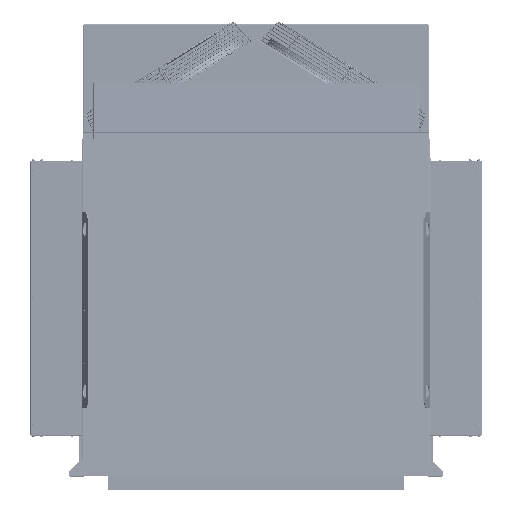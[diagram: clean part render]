
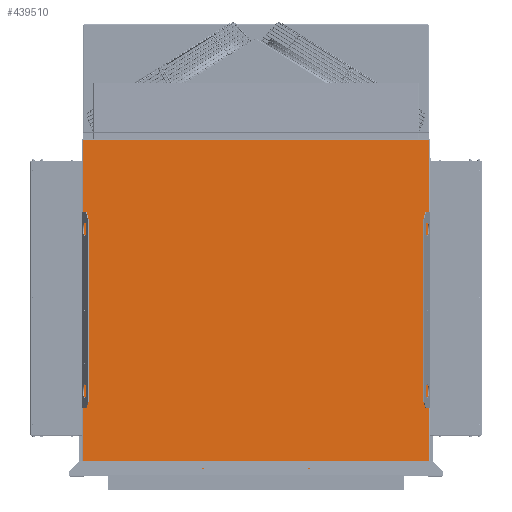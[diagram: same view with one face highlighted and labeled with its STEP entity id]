
A CAD part, top view. The second image highlights one B-rep face of the part: STEP entity #439510.
In plain terms, the highlighted planar face has unit normal (0, 0.044, 0.999) as drawn and (0, 0, 1) by its records, which use the part's own axes.
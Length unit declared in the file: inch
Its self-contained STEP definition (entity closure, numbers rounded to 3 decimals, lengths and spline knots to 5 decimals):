
#11277 = CARTESIAN_POINT ( 'NONE',  ( 50.172, 0.01567, 0.06 ) ) ;
#11894 = LINE ( 'NONE', #552154, #217086 ) ;
#13042 = CIRCLE ( 'NONE', #553299, 0.0745 ) ;
#20046 = CARTESIAN_POINT ( 'NONE',  ( 0.015, 48.78, 0.06 ) ) ;
#20599 = VECTOR ( 'NONE', #441628, 39.37008 ) ;
#26569 = CARTESIAN_POINT ( 'NONE',  ( 32.88667, 0.99488, 0.06 ) ) ;
#27259 = ORIENTED_EDGE ( 'NONE', *, *, #332758, .F. ) ;
#28113 = CARTESIAN_POINT ( 'NONE',  ( 0., 0.125, 0.06 ) ) ;
#32053 = EDGE_CURVE ( 'NONE', #133504, #542837, #13042, .T. ) ;
#32290 = DIRECTION ( 'NONE',  ( 1., 0., 0. ) ) ;
#33481 = AXIS2_PLACEMENT_3D ( 'NONE', #159142, #340338, #521267 ) ;
#38396 = CARTESIAN_POINT ( 'NONE',  ( 0.188, 0., 0.06 ) ) ;
#40410 = EDGE_LOOP ( 'NONE', ( #212394, #309533, #569633, #535136, #318163, #343808, #141840, #113330 ) ) ;
#43125 = EDGE_CURVE ( 'NONE', #484783, #525102, #81365, .T. ) ;
#43129 = VECTOR ( 'NONE', #528334, 39.37008 ) ;
#51130 = EDGE_CURVE ( 'NONE', #526391, #560464, #417854, .T. ) ;
#51651 = ORIENTED_EDGE ( 'NONE', *, *, #171694, .F. ) ;
#59972 = VECTOR ( 'NONE', #184665, 39.37008 ) ;
#64544 = EDGE_CURVE ( 'NONE', #202168, #128416, #117902, .T. ) ;
#66299 = EDGE_CURVE ( 'NONE', #442909, #202168, #11894, .T. ) ;
#67101 = FACE_BOUND ( 'NONE', #332042, .T. ) ;
#71490 = DIRECTION ( 'NONE',  ( 0., 0., 1. ) ) ;
#77910 = VECTOR ( 'NONE', #561153, 39.37008 ) ;
#81365 = LINE ( 'NONE', #28113, #420480 ) ;
#85583 = LINE ( 'NONE', #199533, #541703 ) ;
#86780 = CARTESIAN_POINT ( 'NONE',  ( 50.345, 0.125, 0.06 ) ) ;
#88011 = VERTEX_POINT ( 'NONE', #438697 ) ;
#96069 = CARTESIAN_POINT ( 'NONE',  ( 0.188, 0.01567, 0.06 ) ) ;
#111778 = VERTEX_POINT ( 'NONE', #401046 ) ;
#113330 = ORIENTED_EDGE ( 'NONE', *, *, #66299, .T. ) ;
#114941 = VERTEX_POINT ( 'NONE', #477456 ) ;
#115452 = DIRECTION ( 'NONE',  ( 1., 0., 0. ) ) ;
#116901 = EDGE_CURVE ( 'NONE', #542837, #133504, #430846, .T. ) ;
#117902 = LINE ( 'NONE', #20046, #216715 ) ;
#126040 = DIRECTION ( 'NONE',  ( 0., 0., 1. ) ) ;
#128247 = CARTESIAN_POINT ( 'NONE',  ( 48.3, 0.99488, 0.06 ) ) ;
#128416 = VERTEX_POINT ( 'NONE', #321399 ) ;
#133033 = DIRECTION ( 'NONE',  ( 0., 0., 1. ) ) ;
#133504 = VERTEX_POINT ( 'NONE', #541561 ) ;
#141840 = ORIENTED_EDGE ( 'NONE', *, *, #201828, .T. ) ;
#145421 = DIRECTION ( 'NONE',  ( -1., 0., 0. ) ) ;
#146499 = ORIENTED_EDGE ( 'NONE', *, *, #332454, .F. ) ;
#147624 = CARTESIAN_POINT ( 'NONE',  ( 50.345, 48.76564, 0.06 ) ) ;
#159142 = CARTESIAN_POINT ( 'NONE',  ( 0., 0., 0.06 ) ) ;
#162903 = DIRECTION ( 'NONE',  ( 0., 0., 1. ) ) ;
#168075 = AXIS2_PLACEMENT_3D ( 'NONE', #449605, #126040, #217949 ) ;
#171694 = EDGE_CURVE ( 'NONE', #366582, #187385, #336636, .T. ) ;
#184665 = DIRECTION ( 'NONE',  ( 0., 1., 0. ) ) ;
#185162 = EDGE_LOOP ( 'NONE', ( #146499, #51651 ) ) ;
#187385 = VERTEX_POINT ( 'NONE', #368476 ) ;
#188133 = EDGE_LOOP ( 'NONE', ( #197233, #309720 ) ) ;
#194034 = ORIENTED_EDGE ( 'NONE', *, *, #340081, .F. ) ;
#197233 = ORIENTED_EDGE ( 'NONE', *, *, #116901, .F. ) ;
#197800 = FACE_OUTER_BOUND ( 'NONE', #40410, .T. ) ;
#199008 = CARTESIAN_POINT ( 'NONE',  ( 50.172, 0., 0.06 ) ) ;
#199533 = CARTESIAN_POINT ( 'NONE',  ( 0., 0.125, 0.06 ) ) ;
#201087 = DIRECTION ( 'NONE',  ( 0., -1., 0. ) ) ;
#201828 = EDGE_CURVE ( 'NONE', #525102, #442909, #330045, .T. ) ;
#202168 = VERTEX_POINT ( 'NONE', #524948 ) ;
#203661 = FACE_BOUND ( 'NONE', #267827, .T. ) ;
#211433 = DIRECTION ( 'NONE',  ( 0., 0., 1. ) ) ;
#212394 = ORIENTED_EDGE ( 'NONE', *, *, #64544, .T. ) ;
#215760 = LINE ( 'NONE', #96069, #20599 ) ;
#216715 = VECTOR ( 'NONE', #201087, 39.37008 ) ;
#217086 = VECTOR ( 'NONE', #145421, 39.37008 ) ;
#217949 = DIRECTION ( 'NONE',  ( 1., 0., 0. ) ) ;
#238807 = CARTESIAN_POINT ( 'NONE',  ( 1.9855, 0.99488, 0.06 ) ) ;
#251519 = EDGE_CURVE ( 'NONE', #88011, #435132, #215760, .T. ) ;
#252684 = CARTESIAN_POINT ( 'NONE',  ( 32.96117, 0.99488, 0.06 ) ) ;
#262469 = DIRECTION ( 'NONE',  ( 1., 0., 0. ) ) ;
#267827 = EDGE_LOOP ( 'NONE', ( #364576, #27259 ) ) ;
#276552 = AXIS2_PLACEMENT_3D ( 'NONE', #338854, #71490, #516871 ) ;
#290470 = EDGE_CURVE ( 'NONE', #535459, #111778, #312776, .T. ) ;
#301118 = ORIENTED_EDGE ( 'NONE', *, *, #51130, .F. ) ;
#309533 = ORIENTED_EDGE ( 'NONE', *, *, #538298, .T. ) ;
#309720 = ORIENTED_EDGE ( 'NONE', *, *, #32053, .F. ) ;
#312776 = CIRCLE ( 'NONE', #483274, 0.0745 ) ;
#318163 = ORIENTED_EDGE ( 'NONE', *, *, #408430, .T. ) ;
#320136 = AXIS2_PLACEMENT_3D ( 'NONE', #128247, #211433, #356873 ) ;
#321399 = CARTESIAN_POINT ( 'NONE',  ( 0.015, 0.125, 0.06 ) ) ;
#330045 = LINE ( 'NONE', #463720, #59972 ) ;
#332042 = EDGE_LOOP ( 'NONE', ( #194034, #301118 ) ) ;
#332454 = EDGE_CURVE ( 'NONE', #187385, #366582, #348279, .T. ) ;
#332758 = EDGE_CURVE ( 'NONE', #111778, #535459, #462611, .T. ) ;
#336636 = CIRCLE ( 'NONE', #412652, 0.0745 ) ;
#338854 = CARTESIAN_POINT ( 'NONE',  ( 32.88667, 0.99488, 0.06 ) ) ;
#340081 = EDGE_CURVE ( 'NONE', #560464, #526391, #493273, .T. ) ;
#340338 = DIRECTION ( 'NONE',  ( 0., 0., 1. ) ) ;
#341535 = LINE ( 'NONE', #199008, #77910 ) ;
#343808 = ORIENTED_EDGE ( 'NONE', *, *, #43125, .T. ) ;
#348279 = CIRCLE ( 'NONE', #168075, 0.0745 ) ;
#350017 = CARTESIAN_POINT ( 'NONE',  ( 48.3, 0.99488, 0.06 ) ) ;
#356873 = DIRECTION ( 'NONE',  ( 1., 0., 0. ) ) ;
#360623 = CARTESIAN_POINT ( 'NONE',  ( 17.47333, 0.99488, 0.06 ) ) ;
#364576 = ORIENTED_EDGE ( 'NONE', *, *, #290470, .F. ) ;
#366582 = VERTEX_POINT ( 'NONE', #238807 ) ;
#368476 = CARTESIAN_POINT ( 'NONE',  ( 2.1345, 0.99488, 0.06 ) ) ;
#373934 = CARTESIAN_POINT ( 'NONE',  ( 17.54783, 0.99488, 0.06 ) ) ;
#378277 = CARTESIAN_POINT ( 'NONE',  ( 17.47333, 0.99488, 0.06 ) ) ;
#379026 = PLANE ( 'NONE',  #33481 ) ;
#380721 = DIRECTION ( 'NONE',  ( 1., 0., 0. ) ) ;
#391969 = LINE ( 'NONE', #38396, #43129 ) ;
#401046 = CARTESIAN_POINT ( 'NONE',  ( 48.2255, 0.99488, 0.06 ) ) ;
#408430 = EDGE_CURVE ( 'NONE', #435132, #484783, #341535, .T. ) ;
#412652 = AXIS2_PLACEMENT_3D ( 'NONE', #522077, #162903, #115452 ) ;
#417564 = AXIS2_PLACEMENT_3D ( 'NONE', #26569, #477835, #572716 ) ;
#417854 = CIRCLE ( 'NONE', #276552, 0.0745 ) ;
#420480 = VECTOR ( 'NONE', #262469, 39.37008 ) ;
#430846 = CIRCLE ( 'NONE', #573101, 0.0745 ) ;
#435132 = VERTEX_POINT ( 'NONE', #11277 ) ;
#438697 = CARTESIAN_POINT ( 'NONE',  ( 0.188, 0.01567, 0.06 ) ) ;
#439510 = ADVANCED_FACE ( 'NONE', ( #473903, #557032, #67101, #203661, #197800 ), #379026, .T. ) ;
#441628 = DIRECTION ( 'NONE',  ( 1., 0., 0. ) ) ;
#442909 = VERTEX_POINT ( 'NONE', #147624 ) ;
#449605 = CARTESIAN_POINT ( 'NONE',  ( 2.06, 0.99488, 0.06 ) ) ;
#452240 = CARTESIAN_POINT ( 'NONE',  ( 48.3745, 0.99488, 0.06 ) ) ;
#457261 = CARTESIAN_POINT ( 'NONE',  ( 32.81217, 0.99488, 0.06 ) ) ;
#461647 = CARTESIAN_POINT ( 'NONE',  ( 50.172, 0.125, 0.06 ) ) ;
#462611 = CIRCLE ( 'NONE', #320136, 0.0745 ) ;
#463720 = CARTESIAN_POINT ( 'NONE',  ( 50.345, 0.125, 0.06 ) ) ;
#473116 = DIRECTION ( 'NONE',  ( 0., 0., 1. ) ) ;
#473903 = FACE_BOUND ( 'NONE', #185162, .T. ) ;
#477456 = CARTESIAN_POINT ( 'NONE',  ( 0.188, 0.125, 0.06 ) ) ;
#477835 = DIRECTION ( 'NONE',  ( 0., 0., 1. ) ) ;
#483274 = AXIS2_PLACEMENT_3D ( 'NONE', #350017, #133033, #32290 ) ;
#484783 = VERTEX_POINT ( 'NONE', #461647 ) ;
#491302 = DIRECTION ( 'NONE',  ( 1., 0., 0. ) ) ;
#493273 = CIRCLE ( 'NONE', #417564, 0.0745 ) ;
#516871 = DIRECTION ( 'NONE',  ( 1., 0., 0. ) ) ;
#521267 = DIRECTION ( 'NONE',  ( 1., 0., 0. ) ) ;
#522077 = CARTESIAN_POINT ( 'NONE',  ( 2.06, 0.99488, 0.06 ) ) ;
#524948 = CARTESIAN_POINT ( 'NONE',  ( 0.015, 48.76564, 0.06 ) ) ;
#525102 = VERTEX_POINT ( 'NONE', #86780 ) ;
#526391 = VERTEX_POINT ( 'NONE', #457261 ) ;
#528334 = DIRECTION ( 'NONE',  ( 0., -1., 0. ) ) ;
#535136 = ORIENTED_EDGE ( 'NONE', *, *, #251519, .T. ) ;
#535459 = VERTEX_POINT ( 'NONE', #452240 ) ;
#538298 = EDGE_CURVE ( 'NONE', #128416, #114941, #85583, .T. ) ;
#541561 = CARTESIAN_POINT ( 'NONE',  ( 17.39883, 0.99488, 0.06 ) ) ;
#541703 = VECTOR ( 'NONE', #380721, 39.37008 ) ;
#542837 = VERTEX_POINT ( 'NONE', #373934 ) ;
#552154 = CARTESIAN_POINT ( 'NONE',  ( 50.345, 48.76564, 0.06 ) ) ;
#553299 = AXIS2_PLACEMENT_3D ( 'NONE', #360623, #580291, #491302 ) ;
#557032 = FACE_BOUND ( 'NONE', #188133, .T. ) ;
#559226 = DIRECTION ( 'NONE',  ( 1., 0., 0. ) ) ;
#560464 = VERTEX_POINT ( 'NONE', #252684 ) ;
#561153 = DIRECTION ( 'NONE',  ( 0., 1., 0. ) ) ;
#569633 = ORIENTED_EDGE ( 'NONE', *, *, #576665, .T. ) ;
#572716 = DIRECTION ( 'NONE',  ( 1., 0., 0. ) ) ;
#573101 = AXIS2_PLACEMENT_3D ( 'NONE', #378277, #473116, #559226 ) ;
#576665 = EDGE_CURVE ( 'NONE', #114941, #88011, #391969, .T. ) ;
#580291 = DIRECTION ( 'NONE',  ( 0., 0., 1. ) ) ;
